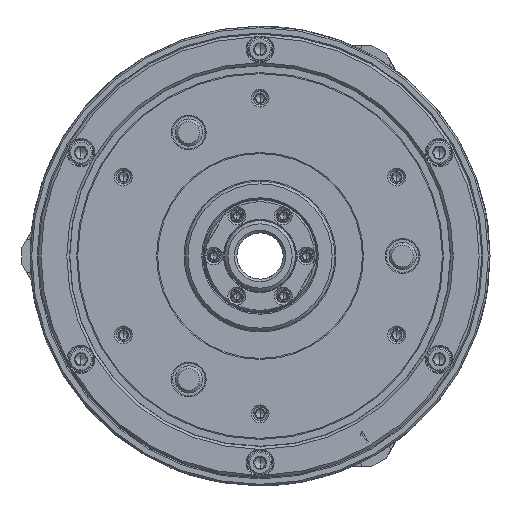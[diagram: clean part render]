
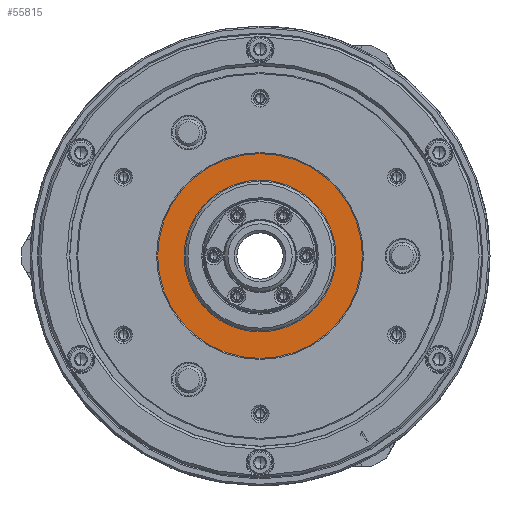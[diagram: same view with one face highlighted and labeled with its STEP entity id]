
A CAD part, left-side view. The second image highlights one B-rep face of the part: STEP entity #55815.
In plain terms, the highlighted planar face has unit normal (-1, 0, 0) as drawn and (0, 0, -1) by its records, which use the part's own axes.
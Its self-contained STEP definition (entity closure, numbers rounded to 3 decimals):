
#12565 = EDGE_LOOP ( 'NONE', ( #140268, #182608 ) ) ;
#12645 = DIRECTION ( 'NONE',  ( 0., 0., -1. ) ) ;
#22673 = EDGE_CURVE ( 'NONE', #143543, #103652, #61716, .T. ) ;
#24515 = DIRECTION ( 'NONE',  ( 0., 0., 1. ) ) ;
#36208 = FACE_BOUND ( 'NONE', #12565, .T. ) ;
#46407 = CIRCLE ( 'NONE', #155309, 37.616 ) ;
#49790 = EDGE_CURVE ( 'NONE', #124854, #137136, #151173, .T. ) ;
#54565 = AXIS2_PLACEMENT_3D ( 'NONE', #146081, #12645, #71982 ) ;
#55815 = ADVANCED_FACE ( 'NONE', ( #169691, #36208 ), #108306, .F. ) ;
#56662 = CARTESIAN_POINT ( 'NONE',  ( 0., 0., -99.8 ) ) ;
#61716 = CIRCLE ( 'NONE', #124041, 37.616 ) ;
#63879 = EDGE_LOOP ( 'NONE', ( #131395, #94219 ) ) ;
#71982 = DIRECTION ( 'NONE',  ( 1., 0., 0. ) ) ;
#76306 = EDGE_CURVE ( 'NONE', #137136, #124854, #164906, .T. ) ;
#92078 = CARTESIAN_POINT ( 'NONE',  ( 37.616, 0., -99.8 ) ) ;
#94219 = ORIENTED_EDGE ( 'NONE', *, *, #22673, .F. ) ;
#101398 = DIRECTION ( 'NONE',  ( 1., 0., 0. ) ) ;
#103102 = EDGE_CURVE ( 'NONE', #103652, #143543, #46407, .T. ) ;
#103652 = VERTEX_POINT ( 'NONE', #108730 ) ;
#108306 = PLANE ( 'NONE',  #179719 ) ;
#108730 = CARTESIAN_POINT ( 'NONE',  ( -37.616, 0., -99.8 ) ) ;
#111183 = CARTESIAN_POINT ( 'NONE',  ( 0., -38., -99.8 ) ) ;
#116130 = DIRECTION ( 'NONE',  ( 0., 0., -1. ) ) ;
#124041 = AXIS2_PLACEMENT_3D ( 'NONE', #130661, #24515, #101398 ) ;
#124854 = VERTEX_POINT ( 'NONE', #125924 ) ;
#125924 = CARTESIAN_POINT ( 'NONE',  ( -27.9, 0., -99.8 ) ) ;
#126780 = DIRECTION ( 'NONE',  ( 1., 0., 0. ) ) ;
#130661 = CARTESIAN_POINT ( 'NONE',  ( 0., 0., -99.8 ) ) ;
#131395 = ORIENTED_EDGE ( 'NONE', *, *, #103102, .F. ) ;
#137136 = VERTEX_POINT ( 'NONE', #179898 ) ;
#140268 = ORIENTED_EDGE ( 'NONE', *, *, #76306, .F. ) ;
#143543 = VERTEX_POINT ( 'NONE', #92078 ) ;
#146081 = CARTESIAN_POINT ( 'NONE',  ( 0., 0., -99.8 ) ) ;
#151173 = CIRCLE ( 'NONE', #54565, 27.9 ) ;
#155010 = DIRECTION ( 'NONE',  ( 1., 0., 0. ) ) ;
#155309 = AXIS2_PLACEMENT_3D ( 'NONE', #170565, #155960, #155010 ) ;
#155960 = DIRECTION ( 'NONE',  ( 0., 0., 1. ) ) ;
#164906 = CIRCLE ( 'NONE', #180490, 27.9 ) ;
#169691 = FACE_OUTER_BOUND ( 'NONE', #63879, .T. ) ;
#170565 = CARTESIAN_POINT ( 'NONE',  ( 0., 0., -99.8 ) ) ;
#170641 = DIRECTION ( 'NONE',  ( 0., 0., 1. ) ) ;
#174618 = DIRECTION ( 'NONE',  ( 1., 0., 0. ) ) ;
#179719 = AXIS2_PLACEMENT_3D ( 'NONE', #111183, #170641, #126780 ) ;
#179898 = CARTESIAN_POINT ( 'NONE',  ( 27.9, 0., -99.8 ) ) ;
#180490 = AXIS2_PLACEMENT_3D ( 'NONE', #56662, #116130, #174618 ) ;
#182608 = ORIENTED_EDGE ( 'NONE', *, *, #49790, .F. ) ;
